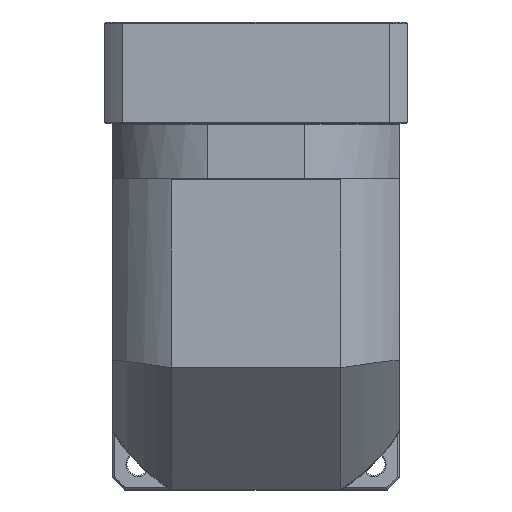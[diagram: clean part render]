
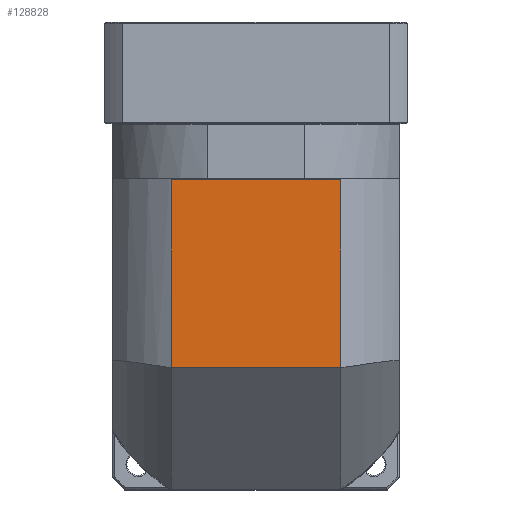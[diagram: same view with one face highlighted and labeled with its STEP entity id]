
A CAD part, top view. The second image highlights one B-rep face of the part: STEP entity #128828.
In plain terms, the highlighted planar face has unit normal (0, 0, 1).
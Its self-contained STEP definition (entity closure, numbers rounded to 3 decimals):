
#3078 = CARTESIAN_POINT ( 'NONE',  ( -152.788, -184.869, 94.364 ) ) ;
#6828 = AXIS2_PLACEMENT_3D ( 'NONE', #103505, #50938, #71232 ) ;
#10350 = VECTOR ( 'NONE', #103806, 1000. ) ;
#13403 = EDGE_CURVE ( 'NONE', #39787, #83143, #37967, .T. ) ;
#13489 = DIRECTION ( 'NONE',  ( 0., 1., 0. ) ) ;
#14716 = VECTOR ( 'NONE', #117272, 1000. ) ;
#23180 = EDGE_LOOP ( 'NONE', ( #89591, #72653, #25967, #59487 ) ) ;
#24273 = CARTESIAN_POINT ( 'NONE',  ( -68.758, 161.235, 94.364 ) ) ;
#25967 = ORIENTED_EDGE ( 'NONE', *, *, #13403, .F. ) ;
#27938 = VERTEX_POINT ( 'NONE', #85682 ) ;
#37967 = LINE ( 'NONE', #115129, #10350 ) ;
#39787 = VERTEX_POINT ( 'NONE', #73769 ) ;
#42783 = DIRECTION ( 'NONE',  ( 0., -1., 0. ) ) ;
#50938 = DIRECTION ( 'NONE',  ( 0., 0., -1. ) ) ;
#54989 = LINE ( 'NONE', #3078, #74188 ) ;
#59487 = ORIENTED_EDGE ( 'NONE', *, *, #133281, .F. ) ;
#61550 = LINE ( 'NONE', #106904, #14716 ) ;
#69529 = EDGE_CURVE ( 'NONE', #83143, #73881, #120148, .T. ) ;
#71232 = DIRECTION ( 'NONE',  ( 1., 0., 0. ) ) ;
#72653 = ORIENTED_EDGE ( 'NONE', *, *, #69529, .F. ) ;
#73541 = EDGE_CURVE ( 'NONE', #73881, #27938, #61550, .T. ) ;
#73769 = CARTESIAN_POINT ( 'NONE',  ( -152.788, 161.235, 94.364 ) ) ;
#73881 = VERTEX_POINT ( 'NONE', #74542 ) ;
#74188 = VECTOR ( 'NONE', #13489, 1000. ) ;
#74542 = CARTESIAN_POINT ( 'NONE',  ( -68.758, 68.235, 94.364 ) ) ;
#83143 = VERTEX_POINT ( 'NONE', #24273 ) ;
#84681 = VECTOR ( 'NONE', #42783, 1000. ) ;
#85682 = CARTESIAN_POINT ( 'NONE',  ( -152.788, 68.235, 94.364 ) ) ;
#89591 = ORIENTED_EDGE ( 'NONE', *, *, #73541, .F. ) ;
#99126 = FACE_OUTER_BOUND ( 'NONE', #23180, .T. ) ;
#103505 = CARTESIAN_POINT ( 'NONE',  ( -181.773, 161.735, 94.364 ) ) ;
#103806 = DIRECTION ( 'NONE',  ( 1., 0., 0. ) ) ;
#106904 = CARTESIAN_POINT ( 'NONE',  ( -181.773, 68.235, 94.364 ) ) ;
#112554 = PLANE ( 'NONE',  #6828 ) ;
#115129 = CARTESIAN_POINT ( 'NONE',  ( -181.773, 161.235, 94.364 ) ) ;
#117272 = DIRECTION ( 'NONE',  ( -1., 0., 0. ) ) ;
#120148 = LINE ( 'NONE', #123741, #84681 ) ;
#123741 = CARTESIAN_POINT ( 'NONE',  ( -68.758, -184.869, 94.364 ) ) ;
#128828 = ADVANCED_FACE ( 'NONE', ( #99126 ), #112554, .F. ) ;
#133281 = EDGE_CURVE ( 'NONE', #27938, #39787, #54989, .T. ) ;
